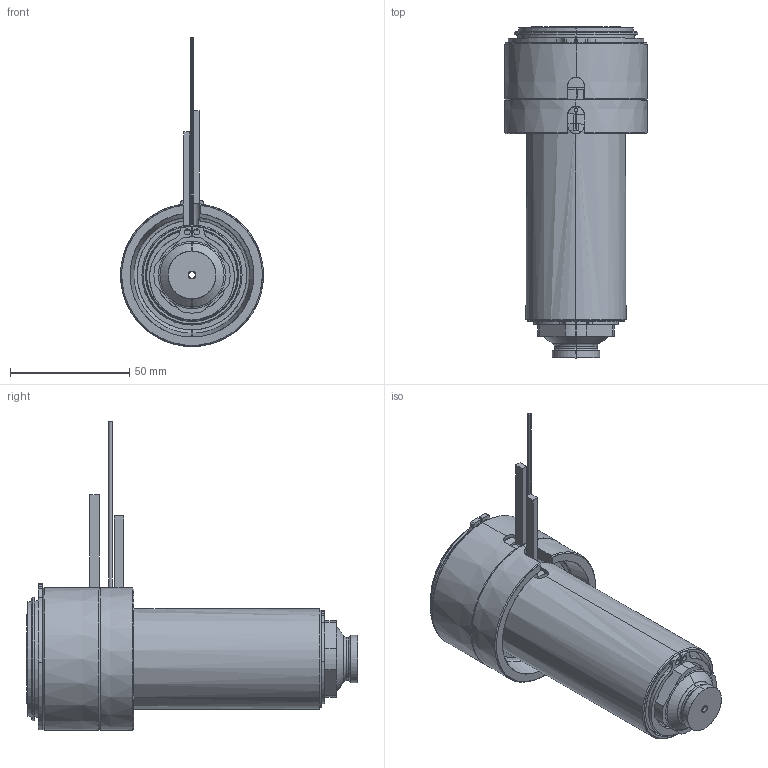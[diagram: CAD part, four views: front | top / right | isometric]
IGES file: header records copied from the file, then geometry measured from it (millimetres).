
Start section: SolidWorks IGES file using analytic representation for surfaces
Global section: file name: C:\Documents and Settings\ws-20\Desktop\TEM\UGER6604-M-A-0 [Øb-2.9 P-0 ØC-15].IGS; native system: SolidWorks 2012; preprocessor: SolidWorks 2012; author: ws-20; date: 120417.115801; units: millimetre
Bounding box: 60 x 139.25 x 129.65 mm (x, y, z)
Surface area: 79473.1 mm2 (no closed solid volume)
Topology: 0 solids, 0 shells, 162 faces, 3046 edges, 3046 vertices
Faces by surface type: revolution 96, bspline 66
